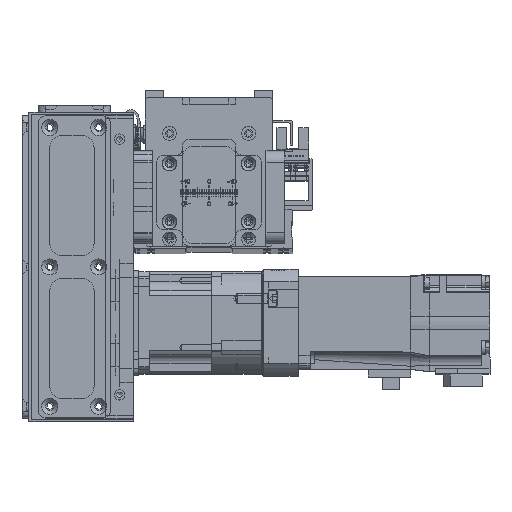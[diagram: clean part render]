
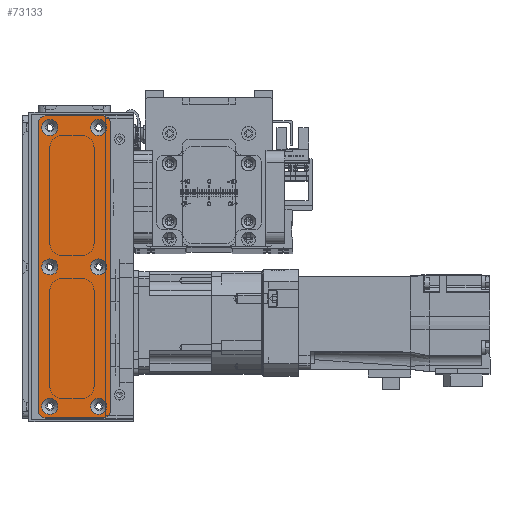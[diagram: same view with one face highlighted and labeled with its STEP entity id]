
A CAD part, top view. The second image highlights one B-rep face of the part: STEP entity #73133.
In plain terms, the highlighted planar face has unit normal (0, 0, 1).
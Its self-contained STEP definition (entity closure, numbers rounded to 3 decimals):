
#1840=FACE_BOUND('',#12714,.T.);
#1841=FACE_BOUND('',#12715,.T.);
#1842=FACE_BOUND('',#12716,.T.);
#1843=FACE_BOUND('',#12717,.T.);
#1844=FACE_BOUND('',#12718,.T.);
#1845=FACE_BOUND('',#12719,.T.);
#4370=PLANE('',#80380);
#8188=FACE_OUTER_BOUND('',#12713,.T.);
#12713=EDGE_LOOP('',(#68316,#68317,#68318,#68319,#68320,#68321,#68322,#68323));
#12714=EDGE_LOOP('',(#68324));
#12715=EDGE_LOOP('',(#68325));
#12716=EDGE_LOOP('',(#68326));
#12717=EDGE_LOOP('',(#68327));
#12718=EDGE_LOOP('',(#68328));
#12719=EDGE_LOOP('',(#68329));
#15541=CIRCLE('',#80334,3.45);
#15544=CIRCLE('',#80339,3.45);
#15547=CIRCLE('',#80344,3.45);
#15550=CIRCLE('',#80349,3.45);
#15553=CIRCLE('',#80354,3.45);
#15556=CIRCLE('',#80359,3.45);
#15563=CIRCLE('',#80369,3.);
#15564=CIRCLE('',#80372,3.);
#15565=CIRCLE('',#80375,3.);
#15566=CIRCLE('',#80378,3.);
#22986=LINE('',#126368,#30415);
#22989=LINE('',#126376,#30418);
#22992=LINE('',#126384,#30421);
#22995=LINE('',#126391,#30424);
#30415=VECTOR('',#100611,10.);
#30418=VECTOR('',#100620,10.);
#30421=VECTOR('',#100629,10.);
#30424=VECTOR('',#100638,10.);
#37216=VERTEX_POINT('',#126284);
#37219=VERTEX_POINT('',#126294);
#37222=VERTEX_POINT('',#126304);
#37225=VERTEX_POINT('',#126314);
#37228=VERTEX_POINT('',#126324);
#37231=VERTEX_POINT('',#126334);
#37242=VERTEX_POINT('',#126361);
#37243=VERTEX_POINT('',#126363);
#37244=VERTEX_POINT('',#126367);
#37245=VERTEX_POINT('',#126371);
#37246=VERTEX_POINT('',#126375);
#37247=VERTEX_POINT('',#126379);
#37248=VERTEX_POINT('',#126383);
#37249=VERTEX_POINT('',#126387);
#47556=EDGE_CURVE('',#37216,#37216,#15541,.T.);
#47561=EDGE_CURVE('',#37219,#37219,#15544,.T.);
#47566=EDGE_CURVE('',#37222,#37222,#15547,.T.);
#47571=EDGE_CURVE('',#37225,#37225,#15550,.T.);
#47576=EDGE_CURVE('',#37228,#37228,#15553,.T.);
#47581=EDGE_CURVE('',#37231,#37231,#15556,.T.);
#47595=EDGE_CURVE('',#37243,#37242,#15563,.T.);
#47597=EDGE_CURVE('',#37244,#37243,#22986,.T.);
#47599=EDGE_CURVE('',#37245,#37244,#15564,.T.);
#47601=EDGE_CURVE('',#37246,#37245,#22989,.T.);
#47603=EDGE_CURVE('',#37247,#37246,#15565,.T.);
#47605=EDGE_CURVE('',#37248,#37247,#22992,.T.);
#47607=EDGE_CURVE('',#37249,#37248,#15566,.T.);
#47609=EDGE_CURVE('',#37242,#37249,#22995,.T.);
#68316=ORIENTED_EDGE('',*,*,#47609,.T.);
#68317=ORIENTED_EDGE('',*,*,#47607,.T.);
#68318=ORIENTED_EDGE('',*,*,#47605,.T.);
#68319=ORIENTED_EDGE('',*,*,#47603,.T.);
#68320=ORIENTED_EDGE('',*,*,#47601,.T.);
#68321=ORIENTED_EDGE('',*,*,#47599,.T.);
#68322=ORIENTED_EDGE('',*,*,#47597,.T.);
#68323=ORIENTED_EDGE('',*,*,#47595,.T.);
#68324=ORIENTED_EDGE('',*,*,#47556,.T.);
#68325=ORIENTED_EDGE('',*,*,#47561,.T.);
#68326=ORIENTED_EDGE('',*,*,#47566,.T.);
#68327=ORIENTED_EDGE('',*,*,#47571,.T.);
#68328=ORIENTED_EDGE('',*,*,#47576,.T.);
#68329=ORIENTED_EDGE('',*,*,#47581,.T.);
#73133=ADVANCED_FACE('',(#8188,#1840,#1841,#1842,#1843,#1844,#1845),#4370,
 .T.);
#80334=AXIS2_PLACEMENT_3D('',#126285,#100519,#100520);
#80339=AXIS2_PLACEMENT_3D('',#126295,#100531,#100532);
#80344=AXIS2_PLACEMENT_3D('',#126305,#100543,#100544);
#80349=AXIS2_PLACEMENT_3D('',#126315,#100555,#100556);
#80354=AXIS2_PLACEMENT_3D('',#126325,#100567,#100568);
#80359=AXIS2_PLACEMENT_3D('',#126335,#100579,#100580);
#80369=AXIS2_PLACEMENT_3D('',#126364,#100606,#100607);
#80372=AXIS2_PLACEMENT_3D('',#126372,#100615,#100616);
#80375=AXIS2_PLACEMENT_3D('',#126380,#100624,#100625);
#80378=AXIS2_PLACEMENT_3D('',#126388,#100633,#100634);
#80380=AXIS2_PLACEMENT_3D('',#126392,#100639,#100640);
#100519=DIRECTION('center_axis',(0.,0.,-1.));
#100520=DIRECTION('ref_axis',(1.,0.,0.));
#100531=DIRECTION('center_axis',(0.,0.,-1.));
#100532=DIRECTION('ref_axis',(1.,0.,0.));
#100543=DIRECTION('center_axis',(0.,0.,-1.));
#100544=DIRECTION('ref_axis',(1.,0.,0.));
#100555=DIRECTION('center_axis',(0.,0.,-1.));
#100556=DIRECTION('ref_axis',(1.,0.,0.));
#100567=DIRECTION('center_axis',(0.,0.,-1.));
#100568=DIRECTION('ref_axis',(1.,0.,0.));
#100579=DIRECTION('center_axis',(0.,0.,-1.));
#100580=DIRECTION('ref_axis',(1.,0.,0.));
#100606=DIRECTION('center_axis',(0.,0.,1.));
#100607=DIRECTION('ref_axis',(0.,1.,0.));
#100611=DIRECTION('',(-1.,0.,0.));
#100615=DIRECTION('center_axis',(0.,0.,1.));
#100616=DIRECTION('ref_axis',(1.,0.,0.));
#100620=DIRECTION('',(0.,1.,0.));
#100624=DIRECTION('center_axis',(0.,0.,1.));
#100625=DIRECTION('ref_axis',(0.,-1.,0.));
#100629=DIRECTION('',(1.,0.,0.));
#100633=DIRECTION('center_axis',(0.,0.,1.));
#100634=DIRECTION('ref_axis',(-1.,0.,0.));
#100638=DIRECTION('',(0.,-1.,0.));
#100639=DIRECTION('center_axis',(0.,0.,1.));
#100640=DIRECTION('ref_axis',(1.,0.,0.));
#126284=CARTESIAN_POINT('',(-3.45,10.5,1.5));
#126285=CARTESIAN_POINT('Origin',(0.,10.5,1.5));
#126294=CARTESIAN_POINT('',(56.55,-10.5,1.5));
#126295=CARTESIAN_POINT('Origin',(60.,-10.5,1.5));
#126304=CARTESIAN_POINT('',(-63.45,10.5,1.5));
#126305=CARTESIAN_POINT('Origin',(-60.,10.5,1.5));
#126314=CARTESIAN_POINT('',(56.55,10.5,1.5));
#126315=CARTESIAN_POINT('Origin',(60.,10.5,1.5));
#126324=CARTESIAN_POINT('',(-63.45,-10.5,1.5));
#126325=CARTESIAN_POINT('Origin',(-60.,-10.5,1.5));
#126334=CARTESIAN_POINT('',(-3.45,-10.5,1.5));
#126335=CARTESIAN_POINT('Origin',(0.,-10.5,1.5));
#126361=CARTESIAN_POINT('',(-65.,12.5,1.5));
#126363=CARTESIAN_POINT('',(-62.,15.5,1.5));
#126364=CARTESIAN_POINT('Origin',(-62.,12.5,1.5));
#126367=CARTESIAN_POINT('',(62.,15.5,1.5));
#126368=CARTESIAN_POINT('',(62.,15.5,1.5));
#126371=CARTESIAN_POINT('',(65.,12.5,1.5));
#126372=CARTESIAN_POINT('Origin',(62.,12.5,1.5));
#126375=CARTESIAN_POINT('',(65.,-12.5,1.5));
#126376=CARTESIAN_POINT('',(65.,-12.5,1.5));
#126379=CARTESIAN_POINT('',(62.,-15.5,1.5));
#126380=CARTESIAN_POINT('Origin',(62.,-12.5,1.5));
#126383=CARTESIAN_POINT('',(-62.,-15.5,1.5));
#126384=CARTESIAN_POINT('',(-62.,-15.5,1.5));
#126387=CARTESIAN_POINT('',(-65.,-12.5,1.5));
#126388=CARTESIAN_POINT('Origin',(-62.,-12.5,1.5));
#126391=CARTESIAN_POINT('',(-65.,12.5,1.5));
#126392=CARTESIAN_POINT('Origin',(0.,0.,
1.5));
